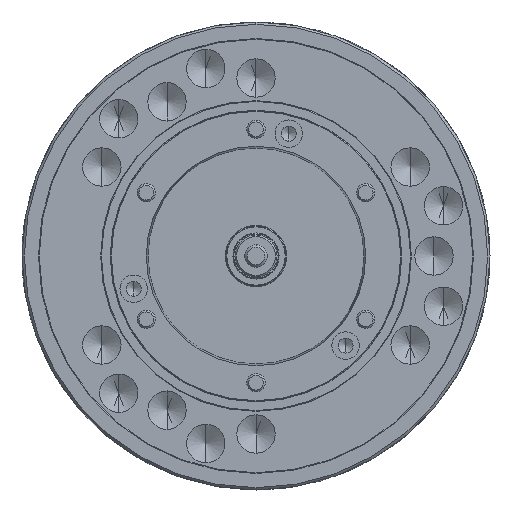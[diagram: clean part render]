
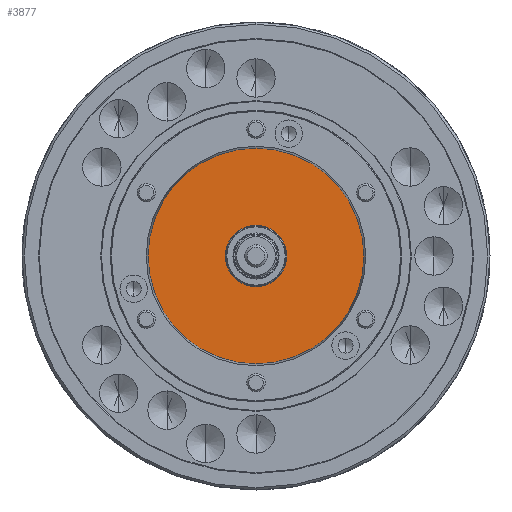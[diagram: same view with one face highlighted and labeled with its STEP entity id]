
A CAD part, left-side view. The second image highlights one B-rep face of the part: STEP entity #3877.
In plain terms, the highlighted planar face has unit normal (-1, 0, 0) as drawn and (0, 0, -1) by its records, which use the part's own axes.
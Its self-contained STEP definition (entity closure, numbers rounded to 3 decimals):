
#479 = EDGE_CURVE ( 'NONE', #58661, #46801, #86945, .T. ) ;
#541 = CARTESIAN_POINT ( 'NONE',  ( 0., -140.7, -145. ) ) ;
#2340 = CARTESIAN_POINT ( 'NONE',  ( 0., 0., -145. ) ) ;
#3011 = EDGE_LOOP ( 'NONE', ( #97639, #59060 ) ) ;
#3877 = ADVANCED_FACE ( 'NONE', ( #109657, #60279 ), #35946, .F. ) ;
#3979 = AXIS2_PLACEMENT_3D ( 'NONE', #87667, #35105, #96515 ) ;
#5845 = DIRECTION ( 'NONE',  ( 1., 0., 0. ) ) ;
#6667 = CIRCLE ( 'NONE', #90266, 40. ) ;
#11182 = DIRECTION ( 'NONE',  ( 1., 0., 0. ) ) ;
#14263 = CIRCLE ( 'NONE', #61038, 140.7 ) ;
#24687 = EDGE_CURVE ( 'NONE', #86184, #65996, #14263, .T. ) ;
#35105 = DIRECTION ( 'NONE',  ( 0., 0., 1. ) ) ;
#35946 = PLANE ( 'NONE',  #53417 ) ;
#37203 = CARTESIAN_POINT ( 'NONE',  ( 140.7, 0., -145. ) ) ;
#38085 = EDGE_CURVE ( 'NONE', #46801, #58661, #6667, .T. ) ;
#40027 = CARTESIAN_POINT ( 'NONE',  ( 0., 0., -145. ) ) ;
#44762 = DIRECTION ( 'NONE',  ( 1., 0., 0. ) ) ;
#46290 = ORIENTED_EDGE ( 'NONE', *, *, #479, .T. ) ;
#46801 = VERTEX_POINT ( 'NONE', #78920 ) ;
#48898 = DIRECTION ( 'NONE',  ( 1., 0., 0. ) ) ;
#53417 = AXIS2_PLACEMENT_3D ( 'NONE', #541, #97356, #44762 ) ;
#54728 = EDGE_CURVE ( 'NONE', #65996, #86184, #72097, .T. ) ;
#58555 = DIRECTION ( 'NONE',  ( 0., 0., 1. ) ) ;
#58661 = VERTEX_POINT ( 'NONE', #90523 ) ;
#59060 = ORIENTED_EDGE ( 'NONE', *, *, #24687, .F. ) ;
#60279 = FACE_BOUND ( 'NONE', #66467, .T. ) ;
#61038 = AXIS2_PLACEMENT_3D ( 'NONE', #2340, #63886, #11182 ) ;
#63886 = DIRECTION ( 'NONE',  ( 0., 0., 1. ) ) ;
#65996 = VERTEX_POINT ( 'NONE', #37203 ) ;
#66467 = EDGE_LOOP ( 'NONE', ( #85891, #46290 ) ) ;
#72097 = CIRCLE ( 'NONE', #3979, 140.7 ) ;
#78920 = CARTESIAN_POINT ( 'NONE',  ( 40., 0., -145. ) ) ;
#82658 = CARTESIAN_POINT ( 'NONE',  ( -140.7, 0., -145. ) ) ;
#85891 = ORIENTED_EDGE ( 'NONE', *, *, #38085, .T. ) ;
#86184 = VERTEX_POINT ( 'NONE', #82658 ) ;
#86945 = CIRCLE ( 'NONE', #108979, 40. ) ;
#87667 = CARTESIAN_POINT ( 'NONE',  ( 0., 0., -145. ) ) ;
#90266 = AXIS2_PLACEMENT_3D ( 'NONE', #111077, #58555, #5845 ) ;
#90523 = CARTESIAN_POINT ( 'NONE',  ( -40., 0., -145. ) ) ;
#96515 = DIRECTION ( 'NONE',  ( 1., 0., 0. ) ) ;
#97356 = DIRECTION ( 'NONE',  ( 0., 0., 1. ) ) ;
#97639 = ORIENTED_EDGE ( 'NONE', *, *, #54728, .F. ) ;
#101433 = DIRECTION ( 'NONE',  ( 0., 0., 1. ) ) ;
#108979 = AXIS2_PLACEMENT_3D ( 'NONE', #40027, #101433, #48898 ) ;
#109657 = FACE_OUTER_BOUND ( 'NONE', #3011, .T. ) ;
#111077 = CARTESIAN_POINT ( 'NONE',  ( 0., 0., -145. ) ) ;
